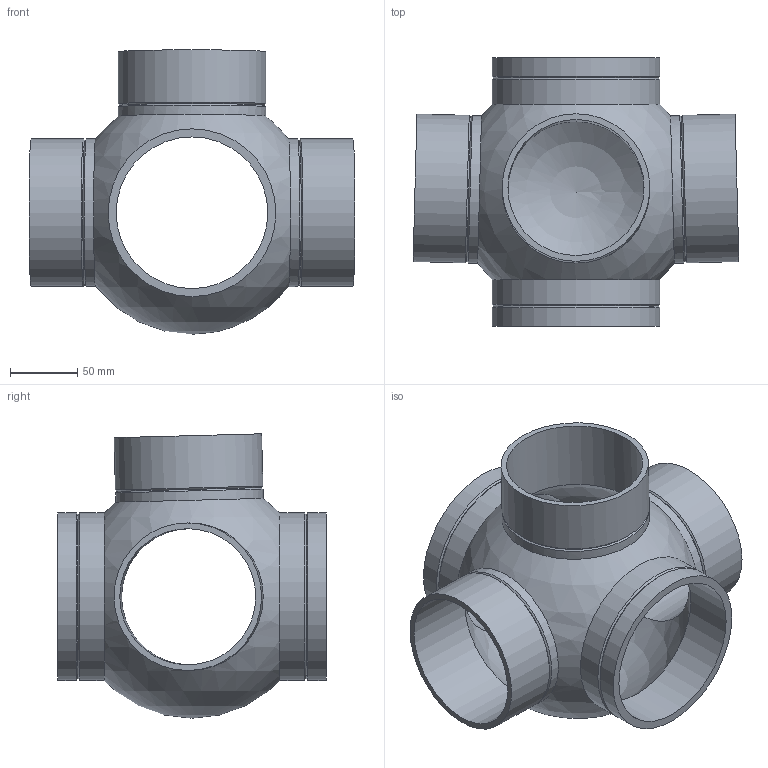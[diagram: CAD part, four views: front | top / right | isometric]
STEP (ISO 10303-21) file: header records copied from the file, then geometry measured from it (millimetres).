
FILE_DESCRIPTION(/* description */ (''),/* implementation_level */ '2;1');
FILE_NAME(/* name */ 'Z:\Geberit\Export\NewStep\368605.stp',/* time_stamp */ '2014-04-02T08:01:16+02:00',/* author */ ('nelson'),/* organization */ (''),/* preprocessor_version */ 'ST-DEVELOPER v15.2',/* originating_system */ 'Autodesk Inventor 2014',/* authorisation */ '');
FILE_SCHEMA (('AUTOMOTIVE_DESIGN { 1 0 10303 214 3 1 1 }'));
Length unit declared in the file: millimetre
Products named in the file (1): 368605
Bounding box: 242.8 x 200 x 211.9 mm (x, y, z)
Volume: 620910.9 mm3; surface area: 246420.9 mm2
Topology: 1 solids, 1 shells, 32 faces, 82 edges, 53 vertices
Faces by surface type: cylinder 15, cone 10, plane 5, sphere 2
Full cylindrical faces by diameter (mm): 101.4 x3, 110 x6, 113 x2, 125 x4
Entity records: 743 total; most frequent: DIRECTION 136, CARTESIAN_POINT 103, EDGE_LOOP 70, ORIENTED_EDGE 70, AXIS2_PLACEMENT_3D 68, FACE_BOUND 45, CIRCLE 35, VERTEX_POINT 35
